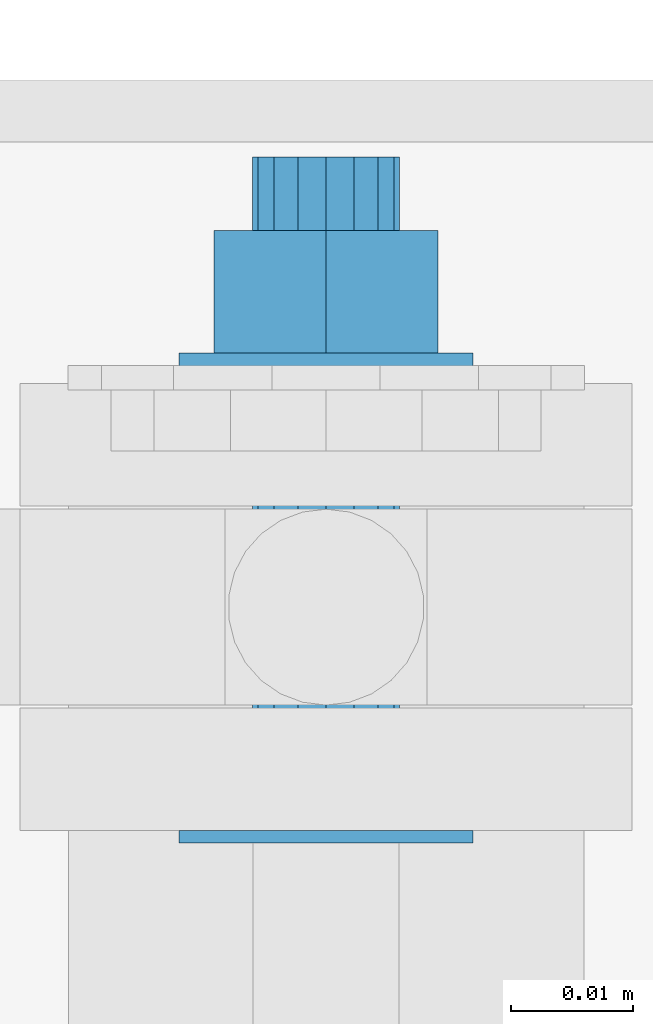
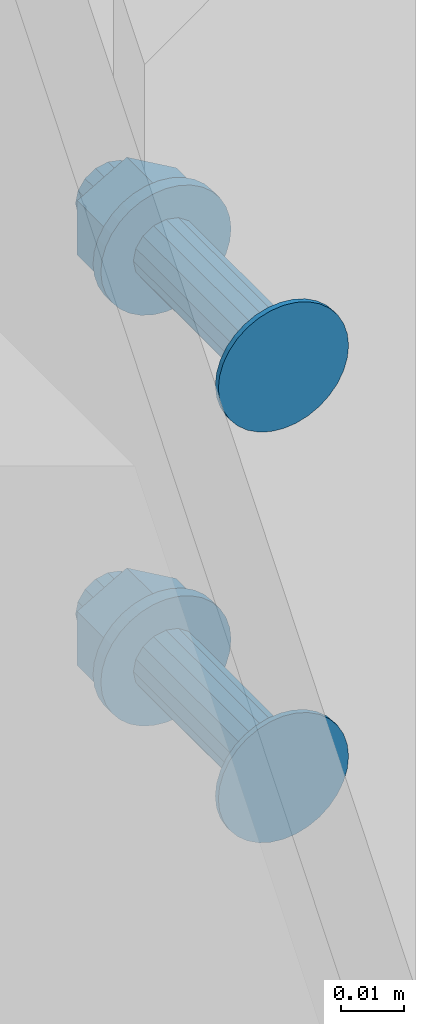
# One storey, part 45 of 98: 1 mechanical fastener.
"""IFC2X3 building model written with IfcOpenShell, lengths in millimetres."""

import ifcopenshell
import ifcopenshell.guid

model = None  # the IFC model being written
_history = None  # IfcOwnerHistory: only IFC2X3 demands one
_inside = {}  # id of a spatial element -> (the spatial element, [elements in it])
_under = {}  # id of a project, library or spatial element -> (it, [spatial elements below it])
_declared = {}  # id of a project -> (the project, [libraries it declares])
_typed = {}  # id of a type object -> (the type object, [elements of that type])
_made_of = {}  # id of a material, layer set ... -> (it, [elements and type objects made of it])


def new_model(schema):
    """Start an empty IFC model of exactly this schema.

    Asked for "IFC4X3", IfcOpenShell would pick the latest addendum, in which some entities
    have other attributes; the version numbers below select the first issue.
    IFC2X3 requires an IfcOwnerHistory on every rooted entity: one is made here for all.
    """
    global model, _history
    if schema == "IFC4X3":
        model = ifcopenshell.file(schema_version=(4, 3, 0, 0))
    else:
        model = ifcopenshell.file(schema=schema)
    _inside.clear()
    _under.clear()
    _declared.clear()
    _typed.clear()
    _made_of.clear()
    _history = None
    if model.schema == "IFC2X3":
        org = make("IfcOrganization", Name="unknown")
        user = make(
            "IfcPersonAndOrganization",
            ThePerson=make("IfcPerson", FamilyName="unknown"),
            TheOrganization=org,
        )
        app = make(
            "IfcApplication",
            ApplicationDeveloper=org,
            Version="unknown",
            ApplicationFullName="unknown",
            ApplicationIdentifier="unknown",
        )
        _history = make(
            "IfcOwnerHistory",
            OwningUser=user,
            OwningApplication=app,
            ChangeAction="ADDED",
            CreationDate=0,
        )
    return model


def make(cls, **values):
    """One entity of the class cls with the attributes given. An attribute that is None is left unset."""
    return model.create_entity(
        cls, **{name: value for name, value in values.items() if value is not None}
    )


def entity(cls, *values):
    """Any entity or typed value of the class cls, its attributes in the order of the schema. None: left unset."""
    e = model.create_entity(cls)
    for i, value in enumerate(values):
        if value is not None:
            e[i] = value
    return e


def rooted(cls, **values):
    """An entity with a GlobalId (a new one), such as an element, a storey or a relation."""
    return make(cls, GlobalId=ifcopenshell.guid.new(), OwnerHistory=_history, **values)


def si_unit(unit_type, name, prefix=None):
    """IfcSIUnit, for example si_unit("LENGTHUNIT", "METRE", prefix="MILLI")."""
    return make("IfcSIUnit", UnitType=unit_type, Prefix=prefix, Name=name)


def converted_unit(unit_type, name, factor, base, dimensions=None, offset=None):
    """IfcConversionBasedUnit, such as the inch: factor (a typed value) times the base unit."""
    return make(
        "IfcConversionBasedUnit"
        if offset is None
        else "IfcConversionBasedUnitWithOffset",
        ConversionOffset=offset,
        Dimensions=None
        if dimensions is None
        else entity("IfcDimensionalExponents", *dimensions),
        UnitType=unit_type,
        Name=name,
        ConversionFactor=make(
            "IfcMeasureWithUnit", ValueComponent=factor, UnitComponent=base
        ),
    )


def assignment(units):
    """IfcUnitAssignment: the units of a project."""
    return None if units is None else make("IfcUnitAssignment", Units=units)


def point(xyz):
    """IfcCartesianPoint."""
    return None if xyz is None else make("IfcCartesianPoint", Coordinates=xyz)


def direction(xyz):
    """IfcDirection."""
    return None if xyz is None else make("IfcDirection", DirectionRatios=xyz)


def frame(location, z_axis=None, x_axis=None):
    """IfcAxis2Placement3D, a coordinate frame: its origin and axes. An axis left out is left unset."""
    return make(
        "IfcAxis2Placement3D",
        Location=point(location),
        Axis=direction(z_axis),
        RefDirection=direction(x_axis),
    )


def origin_with_axes():
    """The frame at (0, 0, 0) with the z axis (0, 0, 1) and the x axis (1, 0, 0) written out."""
    return frame((0.0, 0.0, 0.0), z_axis=(0.0, 0.0, 1.0), x_axis=(1.0, 0.0, 0.0))


def place(relative_to, where):
    """IfcLocalPlacement: puts the frame where relative to a parent placement (None: the world)."""
    return make(
        "IfcLocalPlacement", PlacementRelTo=relative_to, RelativePlacement=where
    )


def context(
    kind, dimensions, precision=None, world=None, true_north=None, identifier=None
):
    """IfcGeometricRepresentationContext, for example the 3D "Model" context."""
    return make(
        "IfcGeometricRepresentationContext",
        ContextIdentifier=identifier,
        ContextType=kind,
        CoordinateSpaceDimension=dimensions,
        Precision=precision,
        WorldCoordinateSystem=world,
        TrueNorth=true_north,
    )


def project(units=None, contexts=None):
    """IfcProject with its units and contexts."""
    return rooted(
        "IfcProject",
        Name="project",
        RepresentationContexts=contexts,
        UnitsInContext=assignment(units),
    )


def spatial(cls, under=None, at=None, **own):
    """A site, building, storey or space (cls), placed at a placement, below another one or the project."""
    s = rooted(cls, ObjectPlacement=at, **own)
    if under is not None:
        _under.setdefault(under.id(), (under, []))[1].append(s)
    return s


def faces_of(points, faces, orient=None, outer=None):
    """IfcFace entities. A face is a list of loops; a loop is a list of indices into points, from 0.

    orient and outer hold one flag for each loop. By default every Orientation is true, the
    first loop of a face is its IfcFaceOuterBound and the others are IfcFaceBound.
    """
    made = []
    for i, loops in enumerate(faces):
        bounds = []
        for j, loop in enumerate(loops):
            is_outer = j == 0 if outer is None else outer[i][j]
            bounds.append(
                make(
                    "IfcFaceOuterBound" if is_outer else "IfcFaceBound",
                    Bound=make("IfcPolyLoop", Polygon=[points[k] for k in loop]),
                    Orientation=True if orient is None else orient[i][j],
                )
            )
        made.append(make("IfcFace", Bounds=bounds))
    return made


def faceted_brep(points, faces, orient=None, outer=None, voids=None):
    """IfcFacetedBrep: a solid bounded by flat faces; with voids (closed shells), ...WithVoids."""
    shared = [point(p) for p in points]
    hull = make("IfcClosedShell", CfsFaces=faces_of(shared, faces, orient, outer))
    if voids is None:
        return make("IfcFacetedBrep", Outer=hull)
    return make(
        "IfcFacetedBrepWithVoids",
        Outer=hull,
        Voids=[
            make(cls, CfsFaces=faces_of(shared, fs, o, b)) for cls, fs, o, b in voids
        ],
    )


def shape(context_of_items, identifier, shape_type, items):
    """IfcShapeRepresentation: the items that make up one representation, for example the "Body"."""
    return make(
        "IfcShapeRepresentation",
        ContextOfItems=context_of_items,
        RepresentationIdentifier=identifier,
        RepresentationType=shape_type,
        Items=items,
    )


def made_of(thing, what):
    """Note that an element or type object is made of a material, layer set ...; save() writes the relation."""
    if what is not None:
        _made_of.setdefault(what.id(), (what, []))[1].append(thing)
    return thing


def element(
    cls,
    number,
    at=None,
    inside=None,
    cuts=None,
    type_object=None,
    material=None,
    context=None,
    identifier="Body",
    shape_type=None,
    held_by="IfcProductDefinitionShape",
    body=None,
    shapes=None,
    **own,
):
    """One element of the class cls, such as IfcWall. Its Tag is "e" and its number.

    at: its placement. inside: the storey or other place that contains it. cuts: it is an
    opening in that element (IfcRelVoidsElement). A single representation is given by context,
    identifier, shape_type and body (its items); several are given by shapes. held_by: the class
    of the entity that holds the representations. save() writes the other relations.
    """
    e = rooted(cls, Tag="e%d" % number, ObjectPlacement=at, **own)
    if body is not None:
        shapes = [shape(context, identifier, shape_type, body)]
    if shapes is not None:
        e.Representation = make(held_by, Representations=shapes)
    if inside is not None:
        _inside.setdefault(inside.id(), (inside, []))[1].append(e)
    if cuts is not None:
        rooted(
            "IfcRelVoidsElement", RelatingBuildingElement=cuts, RelatedOpeningElement=e
        )
    if type_object is not None:
        _typed.setdefault(type_object.id(), (type_object, []))[1].append(e)
    return made_of(e, material)


def aggregate(whole, parts):
    """IfcRelAggregates: a whole, such as a stair, and the parts it consists of."""
    return rooted("IfcRelAggregates", RelatingObject=whole, RelatedObjects=parts)


def save(model, path):
    """Write the relations noted so far, then the file.

    IfcRelAggregates (storeys below a building ...), IfcRelContainedInSpatialStructure (elements
    in a storey), IfcRelDefinesByType, IfcRelAssociatesMaterial and IfcRelDeclares: one each for
    every whole, place, type object, material and project.
    """
    for whole, parts in _under.values():
        aggregate(whole, parts)
    for where, things in _inside.values():
        rooted(
            "IfcRelContainedInSpatialStructure",
            RelatedElements=things,
            RelatingStructure=where,
        )
    for kind, things in _typed.values():
        rooted("IfcRelDefinesByType", RelatedObjects=things, RelatingType=kind)
    for what, things in _made_of.values():
        rooted("IfcRelAssociatesMaterial", RelatedObjects=things, RelatingMaterial=what)
    for by, libraries in _declared.values():
        rooted("IfcRelDeclares", RelatingContext=by, RelatedDefinitions=libraries)
    model.write(path)


model = new_model("IFC2X3")

# Units and contexts
model_context = context("Model", 3, precision=1e-09, world=origin_with_axes())
ifc_project = project(units=[si_unit("LENGTHUNIT", "METRE", prefix="MILLI"), si_unit("AREAUNIT", "SQUARE_METRE"), si_unit("VOLUMEUNIT", "CUBIC_METRE"), converted_unit("PLANEANGLEUNIT", "DEGREE", entity("IfcPlaneAngleMeasure", 0.01745329), si_unit("PLANEANGLEUNIT", "RADIAN"), dimensions=[0, 0, 0, 0, 0, 0, 0])], contexts=[model_context])

# Site, building, storey
site_placement = place(None, origin_with_axes())
site = spatial("IfcSite", under=ifc_project, at=site_placement, Name="Maybachstra?e 2, 71563 Affalterbach", CompositionType="ELEMENT")
building_placement = place(site_placement, origin_with_axes())
building = spatial("IfcBuilding", under=site, at=building_placement, Name="Struktur 1", CompositionType="ELEMENT")
storey_placement = place(building_placement, origin_with_axes())
storey = spatial("IfcBuildingStorey", under=building, at=storey_placement, Name="Default Storey", CompositionType="ELEMENT", Elevation=0.0)

# Mechanical fastener
mechanical_fastener_placement = place(None, origin_with_axes())
element("IfcMechanicalFastener", 1, at=mechanical_fastener_placement, inside=storey, ObjectType="-", NominalDiameter=12.0, NominalLength=55.0, context=model_context, shape_type="Brep", body=[
    faceted_brep([(7326.029157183, 1237.75, 7599.999999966), (7326.029157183, 1238.75, 7599.999999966), (7326.259733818, 1238.75, 7597.658916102), (7326.259733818, 1237.75, 7597.658916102), (7326.942602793, 1238.75, 7595.407798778), (7326.942602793, 1237.75, 7595.407798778), (7328.051521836, 1238.75, 7593.33315717), (7328.051521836, 1237.75, 7593.33315717), (7329.543875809, 1238.75, 7591.514718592), (7329.543875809, 1237.75, 7591.514718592), (7331.362314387, 1238.75, 7590.022364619), (7331.362314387, 1237.75, 7590.022364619), (7333.436955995, 1238.75, 7588.913445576), (7333.436955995, 1237.75, 7588.913445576), (7335.688073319, 1238.75, 7588.230576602), (7335.688073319, 1237.75, 7588.230576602), (7338.029157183, 1238.75, 7587.999999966), (7338.029157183, 1237.75, 7587.999999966), (7340.370241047, 1238.75, 7588.230576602), (7340.370241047, 1237.75, 7588.230576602), (7342.621358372, 1238.75, 7588.913445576), (7342.621358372, 1237.75, 7588.913445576), (7344.695999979, 1238.75, 7590.022364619), (7344.695999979, 1237.75, 7590.022364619), (7346.514438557, 1238.75, 7591.514718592), (7346.514438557, 1237.75, 7591.514718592), (7348.006792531, 1238.75, 7593.33315717), (7348.006792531, 1237.75, 7593.33315717), (7349.115711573, 1238.75, 7595.407798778), (7349.115711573, 1237.75, 7595.407798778), (7349.798580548, 1238.75, 7597.658916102), (7349.798580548, 1237.75, 7597.658916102), (7350.029157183, 1238.75, 7599.999999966), (7350.029157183, 1237.75, 7599.999999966), (7349.798580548, 1238.75, 7602.341083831), (7349.798580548, 1237.75, 7602.341083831), (7349.115711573, 1238.75, 7604.592201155), (7349.115711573, 1237.75, 7604.592201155), (7348.006792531, 1238.75, 7606.666842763), (7348.006792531, 1237.75, 7606.666842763), (7346.514438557, 1238.75, 7608.485281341), (7346.514438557, 1237.75, 7608.485281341), (7344.695999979, 1238.75, 7609.977635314), (7344.695999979, 1237.75, 7609.977635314), (7342.621358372, 1238.75, 7611.086554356), (7342.621358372, 1237.75, 7611.086554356), (7340.370241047, 1238.75, 7611.769423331), (7340.370241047, 1237.75, 7611.769423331), (7338.029157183, 1238.75, 7611.999999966), (7338.029157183, 1237.75, 7611.999999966), (7335.688073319, 1238.75, 7611.769423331), (7335.688073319, 1237.75, 7611.769423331), (7333.436955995, 1238.75, 7611.086554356), (7333.436955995, 1237.75, 7611.086554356), (7331.362314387, 1238.75, 7609.977635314), (7331.362314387, 1237.75, 7609.977635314), (7329.543875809, 1238.75, 7608.485281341), (7329.543875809, 1237.75, 7608.485281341), (7328.051521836, 1238.75, 7606.666842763), (7328.051521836, 1237.75, 7606.666842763), (7326.942602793, 1238.75, 7604.592201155), (7326.942602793, 1237.75, 7604.592201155), (7326.259733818, 1238.75, 7602.341083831), (7326.259733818, 1237.75, 7602.341083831)], [[[0, 1, 2, 3]], [[3, 2, 4, 5]], [[5, 4, 6, 7]], [[7, 6, 8, 9]], [[9, 8, 10, 11]], [[11, 10, 12, 13]], [[13, 12, 14, 15]], [[15, 14, 16, 17]], [[17, 16, 18, 19]], [[19, 18, 20, 21]], [[21, 20, 22, 23]], [[23, 22, 24, 25]], [[25, 24, 26, 27]], [[27, 26, 28, 29]], [[29, 28, 30, 31]], [[31, 30, 32, 33]], [[33, 32, 34, 35]], [[35, 34, 36, 37]], [[37, 36, 38, 39]], [[39, 38, 40, 41]], [[41, 40, 42, 43]], [[43, 42, 44, 45]], [[45, 44, 46, 47]], [[47, 46, 48, 49]], [[49, 48, 50, 51]], [[51, 50, 52, 53]], [[53, 52, 54, 55]], [[55, 54, 56, 57]], [[57, 56, 58, 59]], [[59, 58, 60, 61]], [[61, 60, 62, 63]], [[63, 62, 1, 0]], [[0, 3, 5, 7, 9, 11, 13, 15, 17, 19, 21, 23, 25, 27, 29, 31, 33, 35, 37, 39, 41, 43, 45, 47, 49, 51, 53, 55, 57, 59, 61, 63]], [[1, 62, 60, 58, 56, 54, 52, 50, 48, 46, 44, 42, 40, 38, 36, 34, 32, 30, 28, 26, 24, 22, 20, 18, 16, 14, 12, 10, 8, 6, 4, 2]]]),
    faceted_brep([(7326.029157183, 1237.75, 7519.999999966), (7326.029157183, 1238.75, 7519.999999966), (7326.259733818, 1238.75, 7517.658916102), (7326.259733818, 1237.75, 7517.658916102), (7326.942602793, 1238.75, 7515.407798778), (7326.942602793, 1237.75, 7515.407798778), (7328.051521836, 1238.75, 7513.33315717), (7328.051521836, 1237.75, 7513.33315717), (7329.543875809, 1238.75, 7511.514718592), (7329.543875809, 1237.75, 7511.514718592), (7331.362314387, 1238.75, 7510.022364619), (7331.362314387, 1237.75, 7510.022364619), (7333.436955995, 1238.75, 7508.913445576), (7333.436955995, 1237.75, 7508.913445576), (7335.688073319, 1238.75, 7508.230576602), (7335.688073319, 1237.75, 7508.230576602), (7338.029157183, 1238.75, 7507.999999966), (7338.029157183, 1237.75, 7507.999999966), (7340.370241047, 1238.75, 7508.230576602), (7340.370241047, 1237.75, 7508.230576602), (7342.621358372, 1238.75, 7508.913445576), (7342.621358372, 1237.75, 7508.913445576), (7344.695999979, 1238.75, 7510.022364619), (7344.695999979, 1237.75, 7510.022364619), (7346.514438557, 1238.75, 7511.514718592), (7346.514438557, 1237.75, 7511.514718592), (7348.006792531, 1238.75, 7513.33315717), (7348.006792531, 1237.75, 7513.33315717), (7349.115711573, 1238.75, 7515.407798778), (7349.115711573, 1237.75, 7515.407798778), (7349.798580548, 1238.75, 7517.658916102), (7349.798580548, 1237.75, 7517.658916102), (7350.029157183, 1238.75, 7519.999999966), (7350.029157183, 1237.75, 7519.999999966), (7349.798580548, 1238.75, 7522.341083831), (7349.798580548, 1237.75, 7522.341083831), (7349.115711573, 1238.75, 7524.592201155), (7349.115711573, 1237.75, 7524.592201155), (7348.006792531, 1238.75, 7526.666842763), (7348.006792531, 1237.75, 7526.666842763), (7346.514438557, 1238.75, 7528.485281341), (7346.514438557, 1237.75, 7528.485281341), (7344.695999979, 1238.75, 7529.977635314), (7344.695999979, 1237.75, 7529.977635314), (7342.621358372, 1238.75, 7531.086554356), (7342.621358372, 1237.75, 7531.086554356), (7340.370241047, 1238.75, 7531.769423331), (7340.370241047, 1237.75, 7531.769423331), (7338.029157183, 1238.75, 7531.999999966), (7338.029157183, 1237.75, 7531.999999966), (7335.688073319, 1238.75, 7531.769423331), (7335.688073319, 1237.75, 7531.769423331), (7333.436955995, 1238.75, 7531.086554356), (7333.436955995, 1237.75, 7531.086554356), (7331.362314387, 1238.75, 7529.977635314), (7331.362314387, 1237.75, 7529.977635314), (7329.543875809, 1238.75, 7528.485281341), (7329.543875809, 1237.75, 7528.485281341), (7328.051521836, 1238.75, 7526.666842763), (7328.051521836, 1237.75, 7526.666842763), (7326.942602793, 1238.75, 7524.592201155), (7326.942602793, 1237.75, 7524.592201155), (7326.259733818, 1238.75, 7522.341083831), (7326.259733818, 1237.75, 7522.341083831)], [[[0, 1, 2, 3]], [[3, 2, 4, 5]], [[5, 4, 6, 7]], [[7, 6, 8, 9]], [[9, 8, 10, 11]], [[11, 10, 12, 13]], [[13, 12, 14, 15]], [[15, 14, 16, 17]], [[17, 16, 18, 19]], [[19, 18, 20, 21]], [[21, 20, 22, 23]], [[23, 22, 24, 25]], [[25, 24, 26, 27]], [[27, 26, 28, 29]], [[29, 28, 30, 31]], [[31, 30, 32, 33]], [[33, 32, 34, 35]], [[35, 34, 36, 37]], [[37, 36, 38, 39]], [[39, 38, 40, 41]], [[41, 40, 42, 43]], [[43, 42, 44, 45]], [[45, 44, 46, 47]], [[47, 46, 48, 49]], [[49, 48, 50, 51]], [[51, 50, 52, 53]], [[53, 52, 54, 55]], [[55, 54, 56, 57]], [[57, 56, 58, 59]], [[59, 58, 60, 61]], [[61, 60, 62, 63]], [[63, 62, 1, 0]], [[0, 3, 5, 7, 9, 11, 13, 15, 17, 19, 21, 23, 25, 27, 29, 31, 33, 35, 37, 39, 41, 43, 45, 47, 49, 51, 53, 55, 57, 59, 61, 63]], [[1, 62, 60, 58, 56, 54, 52, 50, 48, 46, 44, 42, 40, 38, 36, 34, 32, 30, 28, 26, 24, 22, 20, 18, 16, 14, 12, 10, 8, 6, 4, 2]]]),
    faceted_brep([(7332.029157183, 1238.75, 7599.999999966), (7332.029157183, 1275.25, 7599.999999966), (7332.485879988, 1275.25, 7597.703899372), (7332.485879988, 1238.75, 7597.703899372), (7333.786516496, 1275.25, 7595.757359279), (7333.786516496, 1238.75, 7595.757359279), (7335.733056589, 1275.25, 7594.456722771), (7335.733056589, 1238.75, 7594.456722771), (7338.029157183, 1275.25, 7593.999999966), (7338.029157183, 1238.75, 7593.999999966), (7340.325257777, 1275.25, 7594.456722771), (7340.325257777, 1238.75, 7594.456722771), (7342.27179787, 1275.25, 7595.757359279), (7342.27179787, 1238.75, 7595.757359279), (7343.572434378, 1275.25, 7597.703899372), (7343.572434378, 1238.75, 7597.703899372), (7344.029157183, 1275.25, 7599.999999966), (7344.029157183, 1238.75, 7599.999999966), (7343.572434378, 1275.25, 7602.296100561), (7343.572434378, 1238.75, 7602.296100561), (7342.27179787, 1275.25, 7604.242640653), (7342.27179787, 1238.75, 7604.242640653), (7340.325257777, 1275.25, 7605.543277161), (7340.325257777, 1238.75, 7605.543277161), (7338.029157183, 1275.25, 7605.999999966), (7338.029157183, 1238.75, 7605.999999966), (7335.733056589, 1275.25, 7605.543277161), (7335.733056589, 1238.75, 7605.543277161), (7333.786516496, 1275.25, 7604.242640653), (7333.786516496, 1238.75, 7604.242640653), (7332.485879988, 1275.25, 7602.296100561), (7332.485879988, 1238.75, 7602.296100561)], [[[0, 1, 2, 3]], [[3, 2, 4, 5]], [[5, 4, 6, 7]], [[7, 6, 8, 9]], [[9, 8, 10, 11]], [[11, 10, 12, 13]], [[13, 12, 14, 15]], [[15, 14, 16, 17]], [[17, 16, 18, 19]], [[19, 18, 20, 21]], [[21, 20, 22, 23]], [[23, 22, 24, 25]], [[25, 24, 26, 27]], [[27, 26, 28, 29]], [[29, 28, 30, 31]], [[31, 30, 1, 0]], [[0, 3, 5, 7, 9, 11, 13, 15, 17, 19, 21, 23, 25, 27, 29, 31]], [[1, 30, 28, 26, 24, 22, 20, 18, 16, 14, 12, 10, 8, 6, 4, 2]]]),
    faceted_brep([(7332.029157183, 1238.75, 7519.999999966), (7332.029157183, 1275.25, 7519.999999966), (7332.485879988, 1275.25, 7517.703899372), (7332.485879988, 1238.75, 7517.703899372), (7333.786516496, 1275.25, 7515.757359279), (7333.786516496, 1238.75, 7515.757359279), (7335.733056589, 1275.25, 7514.456722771), (7335.733056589, 1238.75, 7514.456722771), (7338.029157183, 1275.25, 7513.999999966), (7338.029157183, 1238.75, 7513.999999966), (7340.325257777, 1275.25, 7514.456722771), (7340.325257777, 1238.75, 7514.456722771), (7342.27179787, 1275.25, 7515.757359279), (7342.27179787, 1238.75, 7515.757359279), (7343.572434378, 1275.25, 7517.703899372), (7343.572434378, 1238.75, 7517.703899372), (7344.029157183, 1275.25, 7519.999999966), (7344.029157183, 1238.75, 7519.999999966), (7343.572434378, 1275.25, 7522.296100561), (7343.572434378, 1238.75, 7522.296100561), (7342.27179787, 1275.25, 7524.242640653), (7342.27179787, 1238.75, 7524.242640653), (7340.325257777, 1275.25, 7525.543277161), (7340.325257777, 1238.75, 7525.543277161), (7338.029157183, 1275.25, 7525.999999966), (7338.029157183, 1238.75, 7525.999999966), (7335.733056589, 1275.25, 7525.543277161), (7335.733056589, 1238.75, 7525.543277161), (7333.786516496, 1275.25, 7524.242640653), (7333.786516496, 1238.75, 7524.242640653), (7332.485879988, 1275.25, 7522.296100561), (7332.485879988, 1238.75, 7522.296100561)], [[[0, 1, 2, 3]], [[3, 2, 4, 5]], [[5, 4, 6, 7]], [[7, 6, 8, 9]], [[9, 8, 10, 11]], [[11, 10, 12, 13]], [[13, 12, 14, 15]], [[15, 14, 16, 17]], [[17, 16, 18, 19]], [[19, 18, 20, 21]], [[21, 20, 22, 23]], [[23, 22, 24, 25]], [[25, 24, 26, 27]], [[27, 26, 28, 29]], [[29, 28, 30, 31]], [[31, 30, 1, 0]], [[0, 3, 5, 7, 9, 11, 13, 15, 17, 19, 21, 23, 25, 27, 29, 31]], [[1, 30, 28, 26, 24, 22, 20, 18, 16, 14, 12, 10, 8, 6, 4, 2]]]),
    faceted_brep([(7326.029157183, 1275.25, 7599.999999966), (7326.029157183, 1277.75, 7599.999999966), (7326.259733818, 1277.75, 7597.658916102), (7326.259733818, 1275.25, 7597.658916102), (7326.942602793, 1277.75, 7595.407798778), (7326.942602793, 1275.25, 7595.407798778), (7328.051521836, 1277.75, 7593.33315717), (7328.051521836, 1275.25, 7593.33315717), (7329.543875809, 1277.75, 7591.514718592), (7329.543875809, 1275.25, 7591.514718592), (7331.362314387, 1277.75, 7590.022364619), (7331.362314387, 1275.25, 7590.022364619), (7333.436955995, 1277.75, 7588.913445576), (7333.436955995, 1275.25, 7588.913445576), (7335.688073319, 1277.75, 7588.230576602), (7335.688073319, 1275.25, 7588.230576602), (7338.029157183, 1277.75, 7587.999999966), (7338.029157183, 1275.25, 7587.999999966), (7340.370241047, 1277.75, 7588.230576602), (7340.370241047, 1275.25, 7588.230576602), (7342.621358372, 1277.75, 7588.913445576), (7342.621358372, 1275.25, 7588.913445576), (7344.695999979, 1277.75, 7590.022364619), (7344.695999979, 1275.25, 7590.022364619), (7346.514438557, 1277.75, 7591.514718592), (7346.514438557, 1275.25, 7591.514718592), (7348.006792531, 1277.75, 7593.33315717), (7348.006792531, 1275.25, 7593.33315717), (7349.115711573, 1277.75, 7595.407798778), (7349.115711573, 1275.25, 7595.407798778), (7349.798580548, 1277.75, 7597.658916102), (7349.798580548, 1275.25, 7597.658916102), (7350.029157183, 1277.75, 7599.999999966), (7350.029157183, 1275.25, 7599.999999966), (7349.798580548, 1277.75, 7602.341083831), (7349.798580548, 1275.25, 7602.341083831), (7349.115711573, 1277.75, 7604.592201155), (7349.115711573, 1275.25, 7604.592201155), (7348.006792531, 1277.75, 7606.666842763), (7348.006792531, 1275.25, 7606.666842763), (7346.514438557, 1277.75, 7608.485281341), (7346.514438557, 1275.25, 7608.485281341), (7344.695999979, 1277.75, 7609.977635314), (7344.695999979, 1275.25, 7609.977635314), (7342.621358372, 1277.75, 7611.086554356), (7342.621358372, 1275.25, 7611.086554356), (7340.370241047, 1277.75, 7611.769423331), (7340.370241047, 1275.25, 7611.769423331), (7338.029157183, 1277.75, 7611.999999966), (7338.029157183, 1275.25, 7611.999999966), (7335.688073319, 1277.75, 7611.769423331), (7335.688073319, 1275.25, 7611.769423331), (7333.436955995, 1277.75, 7611.086554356), (7333.436955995, 1275.25, 7611.086554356), (7331.362314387, 1277.75, 7609.977635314), (7331.362314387, 1275.25, 7609.977635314), (7329.543875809, 1277.75, 7608.485281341), (7329.543875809, 1275.25, 7608.485281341), (7328.051521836, 1277.75, 7606.666842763), (7328.051521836, 1275.25, 7606.666842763), (7326.942602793, 1277.75, 7604.592201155), (7326.942602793, 1275.25, 7604.592201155), (7326.259733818, 1277.75, 7602.341083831), (7326.259733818, 1275.25, 7602.341083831)], [[[0, 1, 2, 3]], [[3, 2, 4, 5]], [[5, 4, 6, 7]], [[7, 6, 8, 9]], [[9, 8, 10, 11]], [[11, 10, 12, 13]], [[13, 12, 14, 15]], [[15, 14, 16, 17]], [[17, 16, 18, 19]], [[19, 18, 20, 21]], [[21, 20, 22, 23]], [[23, 22, 24, 25]], [[25, 24, 26, 27]], [[27, 26, 28, 29]], [[29, 28, 30, 31]], [[31, 30, 32, 33]], [[33, 32, 34, 35]], [[35, 34, 36, 37]], [[37, 36, 38, 39]], [[39, 38, 40, 41]], [[41, 40, 42, 43]], [[43, 42, 44, 45]], [[45, 44, 46, 47]], [[47, 46, 48, 49]], [[49, 48, 50, 51]], [[51, 50, 52, 53]], [[53, 52, 54, 55]], [[55, 54, 56, 57]], [[57, 56, 58, 59]], [[59, 58, 60, 61]], [[61, 60, 62, 63]], [[63, 62, 1, 0]], [[0, 3, 5, 7, 9, 11, 13, 15, 17, 19, 21, 23, 25, 27, 29, 31, 33, 35, 37, 39, 41, 43, 45, 47, 49, 51, 53, 55, 57, 59, 61, 63]], [[1, 62, 60, 58, 56, 54, 52, 50, 48, 46, 44, 42, 40, 38, 36, 34, 32, 30, 28, 26, 24, 22, 20, 18, 16, 14, 12, 10, 8, 6, 4, 2]]]),
    faceted_brep([(7326.029157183, 1275.25, 7519.999999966), (7326.029157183, 1277.75, 7519.999999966), (7326.259733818, 1277.75, 7517.658916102), (7326.259733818, 1275.25, 7517.658916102), (7326.942602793, 1277.75, 7515.407798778), (7326.942602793, 1275.25, 7515.407798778), (7328.051521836, 1277.75, 7513.33315717), (7328.051521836, 1275.25, 7513.33315717), (7329.543875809, 1277.75, 7511.514718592), (7329.543875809, 1275.25, 7511.514718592), (7331.362314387, 1277.75, 7510.022364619), (7331.362314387, 1275.25, 7510.022364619), (7333.436955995, 1277.75, 7508.913445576), (7333.436955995, 1275.25, 7508.913445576), (7335.688073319, 1277.75, 7508.230576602), (7335.688073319, 1275.25, 7508.230576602), (7338.029157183, 1277.75, 7507.999999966), (7338.029157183, 1275.25, 7507.999999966), (7340.370241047, 1277.75, 7508.230576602), (7340.370241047, 1275.25, 7508.230576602), (7342.621358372, 1277.75, 7508.913445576), (7342.621358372, 1275.25, 7508.913445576), (7344.695999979, 1277.75, 7510.022364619), (7344.695999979, 1275.25, 7510.022364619), (7346.514438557, 1277.75, 7511.514718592), (7346.514438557, 1275.25, 7511.514718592), (7348.006792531, 1277.75, 7513.33315717), (7348.006792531, 1275.25, 7513.33315717), (7349.115711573, 1277.75, 7515.407798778), (7349.115711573, 1275.25, 7515.407798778), (7349.798580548, 1277.75, 7517.658916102), (7349.798580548, 1275.25, 7517.658916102), (7350.029157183, 1277.75, 7519.999999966), (7350.029157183, 1275.25, 7519.999999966), (7349.798580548, 1277.75, 7522.341083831), (7349.798580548, 1275.25, 7522.341083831), (7349.115711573, 1277.75, 7524.592201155), (7349.115711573, 1275.25, 7524.592201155), (7348.006792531, 1277.75, 7526.666842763), (7348.006792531, 1275.25, 7526.666842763), (7346.514438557, 1277.75, 7528.485281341), (7346.514438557, 1275.25, 7528.485281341), (7344.695999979, 1277.75, 7529.977635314), (7344.695999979, 1275.25, 7529.977635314), (7342.621358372, 1277.75, 7531.086554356), (7342.621358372, 1275.25, 7531.086554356), (7340.370241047, 1277.75, 7531.769423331), (7340.370241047, 1275.25, 7531.769423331), (7338.029157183, 1277.75, 7531.999999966), (7338.029157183, 1275.25, 7531.999999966), (7335.688073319, 1277.75, 7531.769423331), (7335.688073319, 1275.25, 7531.769423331), (7333.436955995, 1277.75, 7531.086554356), (7333.436955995, 1275.25, 7531.086554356), (7331.362314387, 1277.75, 7529.977635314), (7331.362314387, 1275.25, 7529.977635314), (7329.543875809, 1277.75, 7528.485281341), (7329.543875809, 1275.25, 7528.485281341), (7328.051521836, 1277.75, 7526.666842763), (7328.051521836, 1275.25, 7526.666842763), (7326.942602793, 1277.75, 7524.592201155), (7326.942602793, 1275.25, 7524.592201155), (7326.259733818, 1277.75, 7522.341083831), (7326.259733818, 1275.25, 7522.341083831)], [[[0, 1, 2, 3]], [[3, 2, 4, 5]], [[5, 4, 6, 7]], [[7, 6, 8, 9]], [[9, 8, 10, 11]], [[11, 10, 12, 13]], [[13, 12, 14, 15]], [[15, 14, 16, 17]], [[17, 16, 18, 19]], [[19, 18, 20, 21]], [[21, 20, 22, 23]], [[23, 22, 24, 25]], [[25, 24, 26, 27]], [[27, 26, 28, 29]], [[29, 28, 30, 31]], [[31, 30, 32, 33]], [[33, 32, 34, 35]], [[35, 34, 36, 37]], [[37, 36, 38, 39]], [[39, 38, 40, 41]], [[41, 40, 42, 43]], [[43, 42, 44, 45]], [[45, 44, 46, 47]], [[47, 46, 48, 49]], [[49, 48, 50, 51]], [[51, 50, 52, 53]], [[53, 52, 54, 55]], [[55, 54, 56, 57]], [[57, 56, 58, 59]], [[59, 58, 60, 61]], [[61, 60, 62, 63]], [[63, 62, 1, 0]], [[0, 3, 5, 7, 9, 11, 13, 15, 17, 19, 21, 23, 25, 27, 29, 31, 33, 35, 37, 39, 41, 43, 45, 47, 49, 51, 53, 55, 57, 59, 61, 63]], [[1, 62, 60, 58, 56, 54, 52, 50, 48, 46, 44, 42, 40, 38, 36, 34, 32, 30, 28, 26, 24, 22, 20, 18, 16, 14, 12, 10, 8, 6, 4, 2]]]),
    faceted_brep([(7347.165725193, 1287.75, 7594.724999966), (7347.165725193, 1277.75, 7594.724999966), (7338.029157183, 1277.75, 7589.449999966), (7338.029157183, 1287.75, 7589.449999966), (7328.892589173, 1277.75, 7594.724999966), (7328.892589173, 1287.75, 7594.724999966), (7328.892589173, 1277.75, 7605.274999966), (7328.892589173, 1287.75, 7605.274999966), (7338.029157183, 1277.75, 7610.549999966), (7338.029157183, 1287.75, 7610.549999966), (7347.165725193, 1277.75, 7605.274999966), (7347.165725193, 1287.75, 7605.274999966)], [[[0, 1, 2, 3]], [[3, 2, 4, 5]], [[5, 4, 6, 7]], [[7, 6, 8, 9]], [[9, 8, 10, 11]], [[11, 10, 1, 0]], [[4, 2, 1, 10, 8, 6]], [[0, 3, 5, 7, 9, 11]]]),
    faceted_brep([(7347.165725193, 1287.75, 7514.724999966), (7347.165725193, 1277.75, 7514.724999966), (7338.029157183, 1277.75, 7509.449999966), (7338.029157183, 1287.75, 7509.449999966), (7328.892589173, 1277.75, 7514.724999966), (7328.892589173, 1287.75, 7514.724999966), (7328.892589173, 1277.75, 7525.274999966), (7328.892589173, 1287.75, 7525.274999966), (7338.029157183, 1277.75, 7530.549999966), (7338.029157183, 1287.75, 7530.549999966), (7347.165725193, 1277.75, 7525.274999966), (7347.165725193, 1287.75, 7525.274999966)], [[[0, 1, 2, 3]], [[3, 2, 4, 5]], [[5, 4, 6, 7]], [[7, 6, 8, 9]], [[9, 8, 10, 11]], [[11, 10, 1, 0]], [[4, 2, 1, 10, 8, 6]], [[0, 3, 5, 7, 9, 11]]]),
    faceted_brep([(7332.029157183, 1287.75, 7599.999999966), (7332.029157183, 1293.75, 7599.999999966), (7332.485879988, 1293.75, 7597.703899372), (7332.485879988, 1287.75, 7597.703899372), (7333.786516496, 1293.75, 7595.757359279), (7333.786516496, 1287.75, 7595.757359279), (7335.733056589, 1293.75, 7594.456722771), (7335.733056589, 1287.75, 7594.456722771), (7338.029157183, 1293.75, 7593.999999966), (7338.029157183, 1287.75, 7593.999999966), (7340.325257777, 1293.75, 7594.456722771), (7340.325257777, 1287.75, 7594.456722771), (7342.27179787, 1293.75, 7595.757359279), (7342.27179787, 1287.75, 7595.757359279), (7343.572434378, 1293.75, 7597.703899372), (7343.572434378, 1287.75, 7597.703899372), (7344.029157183, 1293.75, 7599.999999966), (7344.029157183, 1287.75, 7599.999999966), (7343.572434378, 1293.75, 7602.296100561), (7343.572434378, 1287.75, 7602.296100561), (7342.27179787, 1293.75, 7604.242640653), (7342.27179787, 1287.75, 7604.242640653), (7340.325257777, 1293.75, 7605.543277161), (7340.325257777, 1287.75, 7605.543277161), (7338.029157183, 1293.75, 7605.999999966), (7338.029157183, 1287.75, 7605.999999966), (7335.733056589, 1293.75, 7605.543277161), (7335.733056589, 1287.75, 7605.543277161), (7333.786516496, 1293.75, 7604.242640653), (7333.786516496, 1287.75, 7604.242640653), (7332.485879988, 1293.75, 7602.296100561), (7332.485879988, 1287.75, 7602.296100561)], [[[0, 1, 2, 3]], [[3, 2, 4, 5]], [[5, 4, 6, 7]], [[7, 6, 8, 9]], [[9, 8, 10, 11]], [[11, 10, 12, 13]], [[13, 12, 14, 15]], [[15, 14, 16, 17]], [[17, 16, 18, 19]], [[19, 18, 20, 21]], [[21, 20, 22, 23]], [[23, 22, 24, 25]], [[25, 24, 26, 27]], [[27, 26, 28, 29]], [[29, 28, 30, 31]], [[31, 30, 1, 0]], [[0, 3, 5, 7, 9, 11, 13, 15, 17, 19, 21, 23, 25, 27, 29, 31]], [[1, 30, 28, 26, 24, 22, 20, 18, 16, 14, 12, 10, 8, 6, 4, 2]]]),
    faceted_brep([(7332.029157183, 1287.75, 7519.999999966), (7332.029157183, 1293.75, 7519.999999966), (7332.485879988, 1293.75, 7517.703899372), (7332.485879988, 1287.75, 7517.703899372), (7333.786516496, 1293.75, 7515.757359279), (7333.786516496, 1287.75, 7515.757359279), (7335.733056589, 1293.75, 7514.456722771), (7335.733056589, 1287.75, 7514.456722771), (7338.029157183, 1293.75, 7513.999999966), (7338.029157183, 1287.75, 7513.999999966), (7340.325257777, 1293.75, 7514.456722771), (7340.325257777, 1287.75, 7514.456722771), (7342.27179787, 1293.75, 7515.757359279), (7342.27179787, 1287.75, 7515.757359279), (7343.572434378, 1293.75, 7517.703899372), (7343.572434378, 1287.75, 7517.703899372), (7344.029157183, 1293.75, 7519.999999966), (7344.029157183, 1287.75, 7519.999999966), (7343.572434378, 1293.75, 7522.296100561), (7343.572434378, 1287.75, 7522.296100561), (7342.27179787, 1293.75, 7524.242640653), (7342.27179787, 1287.75, 7524.242640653), (7340.325257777, 1293.75, 7525.543277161), (7340.325257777, 1287.75, 7525.543277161), (7338.029157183, 1293.75, 7525.999999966), (7338.029157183, 1287.75, 7525.999999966), (7335.733056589, 1293.75, 7525.543277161), (7335.733056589, 1287.75, 7525.543277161), (7333.786516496, 1293.75, 7524.242640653), (7333.786516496, 1287.75, 7524.242640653), (7332.485879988, 1293.75, 7522.296100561), (7332.485879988, 1287.75, 7522.296100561)], [[[0, 1, 2, 3]], [[3, 2, 4, 5]], [[5, 4, 6, 7]], [[7, 6, 8, 9]], [[9, 8, 10, 11]], [[11, 10, 12, 13]], [[13, 12, 14, 15]], [[15, 14, 16, 17]], [[17, 16, 18, 19]], [[19, 18, 20, 21]], [[21, 20, 22, 23]], [[23, 22, 24, 25]], [[25, 24, 26, 27]], [[27, 26, 28, 29]], [[29, 28, 30, 31]], [[31, 30, 1, 0]], [[0, 3, 5, 7, 9, 11, 13, 15, 17, 19, 21, 23, 25, 27, 29, 31]], [[1, 30, 28, 26, 24, 22, 20, 18, 16, 14, 12, 10, 8, 6, 4, 2]]]),
])

save(model, "model.ifc")
